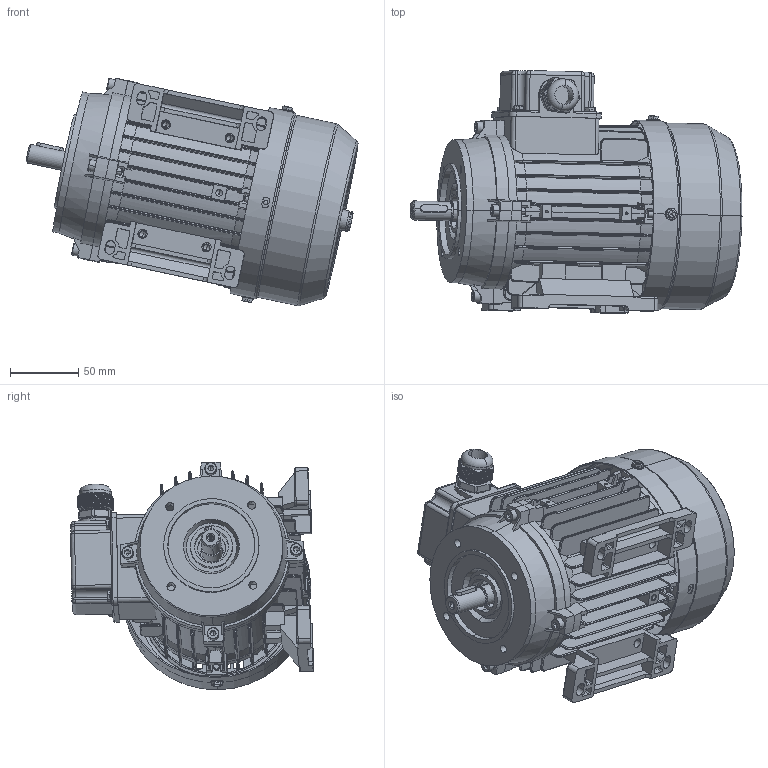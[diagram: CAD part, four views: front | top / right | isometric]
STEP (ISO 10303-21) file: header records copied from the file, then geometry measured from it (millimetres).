
FILE_DESCRIPTION (( 'STEP AP203' ), '1' );
FILE_NAME ('MSL71 assembly B34.STEP', '2017-11-26T09:38:23', ( 'user' ), ( 'china' ), 'SwSTEP 2.0', 'SolidWorks 2016', '' );
FILE_SCHEMA (( 'CONFIG_CONTROL_DESIGN' ));
Length unit declared in the file: millimetre
Products named in the file (14): GB-T 70.1-2000 M5_20; M71菁褐; M20 cable gland; M71傷裔B3_Post; M71傷裔B14; M71瑞欶_69; M71-Shaft ; MS71 綴裔瑞欶郪磁; MSL63-71堤盄碟; MSL71 assembly B34; GB-T 29.2-1988 M4鞠褒坋趼湍菜_05; MSL63-71堤盄碟蚾饜; MSL71-儂褲-L114; GB-T 5780-2000 M5_020
Assembly tree (26 placements, depth 3):
  MSL71 assembly B34
    MSL71-儂褲-L114
    M71菁褐  x2
    M71-Shaft 
    MS71 綴裔瑞欶郪磁
      M71傷裔B3_Post
      M71瑞欶_69
      GB-T 29.2-1988 M4鞠褒坋趼湍菜_05  x3
    MSL63-71堤盄碟蚾饜
      MSL63-71堤盄碟
      GB-T 29.2-1988 M4鞠褒坋趼湍菜_05  x4
      M20 cable gland
    GB-T 70.1-2000 M5_20  x4
    GB-T 5780-2000 M5_020  x4
    M71傷裔B14
Bounding box: 243.88 x 178.22 x 167.16 mm (x, y, z)
Volume: 531693 mm3; surface area: 415432.5 mm2
Topology: 24 solids, 24 shells, 3135 faces, 8066 edges, 5026 vertices
Faces by surface type: plane 1519, cylinder 1024, cone 218, bspline 218, torus 156
Entity records: 102335 total; most frequent: CARTESIAN_POINT 37621, ORIENTED_EDGE 13712, DIRECTION 12411, EDGE_CURVE 6856, VERTEX_POINT 4355, AXIS2_PLACEMENT_3D 4312, VECTOR 3787, LINE 3787
